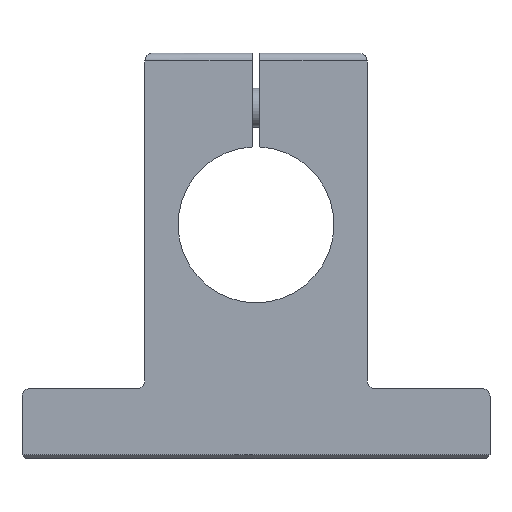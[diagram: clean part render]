
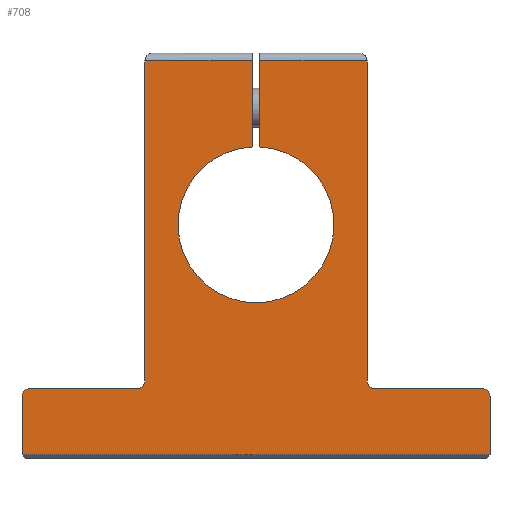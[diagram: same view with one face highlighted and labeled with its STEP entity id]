
A CAD part, left-side view. The second image highlights one B-rep face of the part: STEP entity #708.
In plain terms, the highlighted planar face has unit normal (-1, 0, 0).
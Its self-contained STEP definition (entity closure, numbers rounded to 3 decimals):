
#443=CARTESIAN_POINT('',(0.0,-1.,42.0));
#444=VERTEX_POINT('',#443);
#452=CARTESIAN_POINT('',(0.0,-28.5,42.0));
#453=VERTEX_POINT('',#452);
#454=CARTESIAN_POINT('',(0.0,-1.,42.0));
#455=DIRECTION('',(0.0,-1.0,0.0));
#456=VECTOR('',#455,27.5);
#457=LINE('',#454,#456);
#458=EDGE_CURVE('',#444,#453,#457,.T.);
#548=CARTESIAN_POINT('',(0.0,-28.5,-40.));
#549=VERTEX_POINT('',#548);
#550=CARTESIAN_POINT('',(0.0,-28.5,42.0));
#551=DIRECTION('',(0.0,0.0,-1.0));
#552=VECTOR('',#551,82.0);
#553=LINE('',#550,#552);
#554=EDGE_CURVE('',#453,#549,#553,.T.);
#584=CARTESIAN_POINT('',(0.0,0.,-11.921));
#585=DIRECTION('',(1.0,0.0,0.0));
#586=DIRECTION('',(0.0,0.0,-1.0));
#587=AXIS2_PLACEMENT_3D('',#584,#585,#586);
#588=PLANE('',#587);
#589=ORIENTED_EDGE('',*,*,#458,.F.);
#590=CARTESIAN_POINT('',(0.0,-1.,19.975));
#591=VERTEX_POINT('',#590);
#592=CARTESIAN_POINT('',(0.0,-1.,19.975));
#593=DIRECTION('',(0.0,0.0,1.0));
#594=VECTOR('',#593,22.025);
#595=LINE('',#592,#594);
#596=EDGE_CURVE('',#591,#444,#595,.T.);
#597=ORIENTED_EDGE('',*,*,#596,.F.);
#598=CARTESIAN_POINT('',(0.0,1.,19.975));
#599=VERTEX_POINT('',#598);
#600=CARTESIAN_POINT('',(0.0,0.0,0.));
#601=DIRECTION('',(-1.0,0.0,0.0));
#602=DIRECTION('',(0.0,-1.0,0.0));
#603=AXIS2_PLACEMENT_3D('',#600,#601,#602);
#604=CIRCLE('',#603,20.0);
#605=EDGE_CURVE('',#599,#591,#604,.T.);
#606=ORIENTED_EDGE('',*,*,#605,.F.);
#607=CARTESIAN_POINT('',(0.0,1.,42.0));
#608=VERTEX_POINT('',#607);
#609=CARTESIAN_POINT('',(0.0,1.,42.0));
#610=DIRECTION('',(0.0,0.0,-1.0));
#611=VECTOR('',#610,22.025);
#612=LINE('',#609,#611);
#613=EDGE_CURVE('',#608,#599,#612,.T.);
#614=ORIENTED_EDGE('',*,*,#613,.F.);
#615=CARTESIAN_POINT('',(0.0,28.5,42.));
#616=VERTEX_POINT('',#615);
#617=CARTESIAN_POINT('',(0.0,28.5,42.));
#618=DIRECTION('',(0.0,-1.0,0.0));
#619=VECTOR('',#618,27.5);
#620=LINE('',#617,#619);
#621=EDGE_CURVE('',#616,#608,#620,.T.);
#622=ORIENTED_EDGE('',*,*,#621,.F.);
#623=CARTESIAN_POINT('',(0.0,28.5,-40.0));
#624=VERTEX_POINT('',#623);
#625=CARTESIAN_POINT('',(0.0,28.5,-40.0));
#626=DIRECTION('',(0.0,0.0,1.0));
#627=VECTOR('',#626,82.);
#628=LINE('',#625,#627);
#629=EDGE_CURVE('',#624,#616,#628,.T.);
#630=ORIENTED_EDGE('',*,*,#629,.F.);
#631=CARTESIAN_POINT('',(0.0,30.5,-42.0));
#632=VERTEX_POINT('',#631);
#633=CARTESIAN_POINT('',(0.0,30.5,-40.0));
#634=DIRECTION('',(-1.,0.0,0.0));
#635=DIRECTION('',(0.0,-0.707,-0.707));
#636=AXIS2_PLACEMENT_3D('',#633,#634,#635);
#637=CIRCLE('',#636,2.);
#638=EDGE_CURVE('',#632,#624,#637,.T.);
#639=ORIENTED_EDGE('',*,*,#638,.F.);
#640=CARTESIAN_POINT('',(0.0,58.,-42.));
#641=VERTEX_POINT('',#640);
#642=CARTESIAN_POINT('',(0.0,58.,-42.));
#643=DIRECTION('',(0.0,-1.0,0.0));
#644=VECTOR('',#643,27.5);
#645=LINE('',#642,#644);
#646=EDGE_CURVE('',#641,#632,#645,.T.);
#647=ORIENTED_EDGE('',*,*,#646,.F.);
#648=CARTESIAN_POINT('',(0.0,60.0,-44.));
#649=VERTEX_POINT('',#648);
#650=CARTESIAN_POINT('',(0.0,58.,-44.));
#651=DIRECTION('',(1.,0.0,0.0));
#652=DIRECTION('',(0.0,0.707,0.707));
#653=AXIS2_PLACEMENT_3D('',#650,#651,#652);
#654=CIRCLE('',#653,2.);
#655=EDGE_CURVE('',#649,#641,#654,.T.);
#656=ORIENTED_EDGE('',*,*,#655,.F.);
#657=CARTESIAN_POINT('',(0.0,60.0,-59.0));
#658=VERTEX_POINT('',#657);
#659=CARTESIAN_POINT('',(0.0,60.0,-59.0));
#660=DIRECTION('',(0.0,0.0,1.0));
#661=VECTOR('',#660,15.);
#662=LINE('',#659,#661);
#663=EDGE_CURVE('',#658,#649,#662,.T.);
#664=ORIENTED_EDGE('',*,*,#663,.F.);
#665=CARTESIAN_POINT('',(0.0,-60.0,-59.0));
#666=VERTEX_POINT('',#665);
#667=CARTESIAN_POINT('',(0.0,-60.0,-59.0));
#668=DIRECTION('',(0.0,1.0,0.0));
#669=VECTOR('',#668,120.0);
#670=LINE('',#667,#669);
#671=EDGE_CURVE('',#666,#658,#670,.T.);
#672=ORIENTED_EDGE('',*,*,#671,.F.);
#673=CARTESIAN_POINT('',(0.0,-60.0,-44.));
#674=VERTEX_POINT('',#673);
#675=CARTESIAN_POINT('',(0.0,-60.0,-44.));
#676=DIRECTION('',(0.0,0.0,-1.0));
#677=VECTOR('',#676,15.);
#678=LINE('',#675,#677);
#679=EDGE_CURVE('',#674,#666,#678,.T.);
#680=ORIENTED_EDGE('',*,*,#679,.F.);
#681=CARTESIAN_POINT('',(0.0,-58.,-42.));
#682=VERTEX_POINT('',#681);
#683=CARTESIAN_POINT('',(0.0,-58.,-44.));
#684=DIRECTION('',(1.,0.0,0.0));
#685=DIRECTION('',(0.0,-0.707,0.707));
#686=AXIS2_PLACEMENT_3D('',#683,#684,#685);
#687=CIRCLE('',#686,2.);
#688=EDGE_CURVE('',#682,#674,#687,.T.);
#689=ORIENTED_EDGE('',*,*,#688,.F.);
#690=CARTESIAN_POINT('',(0.0,-30.5,-42.0));
#691=VERTEX_POINT('',#690);
#692=CARTESIAN_POINT('',(0.0,-30.5,-42.0));
#693=DIRECTION('',(0.0,-1.0,0.0));
#694=VECTOR('',#693,27.5);
#695=LINE('',#692,#694);
#696=EDGE_CURVE('',#691,#682,#695,.T.);
#697=ORIENTED_EDGE('',*,*,#696,.F.);
#698=CARTESIAN_POINT('',(0.0,-30.5,-40.0));
#699=DIRECTION('',(-1.,0.0,0.0));
#700=DIRECTION('',(0.0,0.707,-0.707));
#701=AXIS2_PLACEMENT_3D('',#698,#699,#700);
#702=CIRCLE('',#701,2.);
#703=EDGE_CURVE('',#549,#691,#702,.T.);
#704=ORIENTED_EDGE('',*,*,#703,.F.);
#705=ORIENTED_EDGE('',*,*,#554,.F.);
#706=EDGE_LOOP('',(#589,#597,#606,#614,#622,#630,#639,#647,#656,#664,#672,#680,#689,#697,#704,#705));
#707=FACE_OUTER_BOUND('',#706,.T.);
#708=ADVANCED_FACE('',(#707),#588,.F.);
